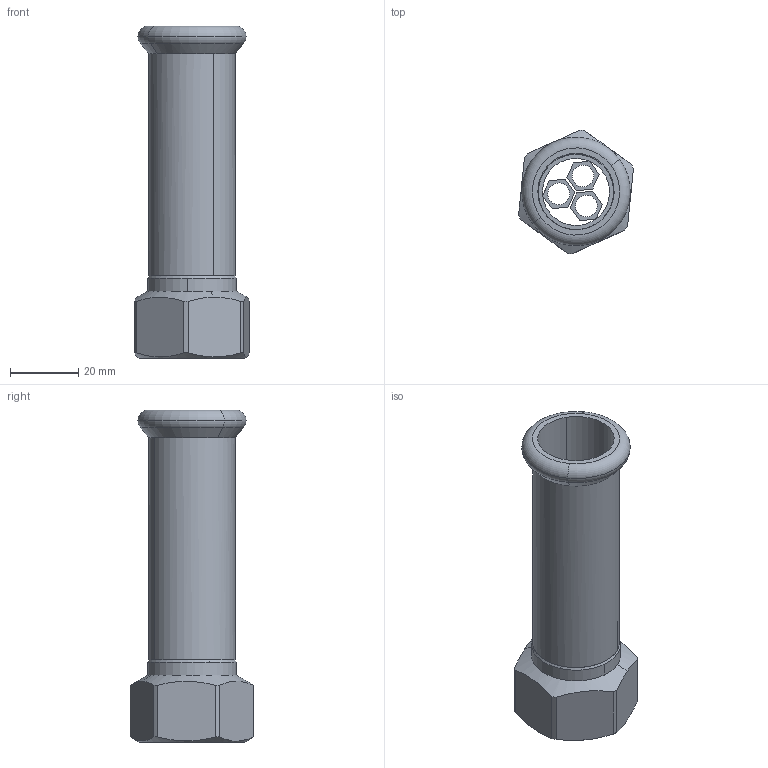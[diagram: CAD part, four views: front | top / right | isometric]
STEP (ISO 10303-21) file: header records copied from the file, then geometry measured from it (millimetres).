
FILE_DESCRIPTION(('OneSpaceDesigner STEP Export'),'2;1');
FILE_NAME('R2741 22xRp3-4.stp','2010-06-10T14:47:32',(''),(''),'OneSpace Designer STEP processor for AP214 (Solid Model)','OneSpace Modeling 15.00A 14-Mar-2007 (C) CoCreate Software GmbH','');
FILE_SCHEMA(('AUTOMOTIVE_DESIGN { 1 0 10303 214 1 1 1 1 }'));
Length unit declared in the file: millimetre
Products named in the file (2): R2741_22xRp3-4
Assembly tree (1 placements, depth 2):
  R2741_22xRp3-4
    R2741_22xRp3-4
Bounding box: 33.55 x 36.12 x 97 mm (x, y, z)
Volume: 18262.3 mm3; surface area: 17465.1 mm2
Topology: 1 solids, 1 shells, 90 faces, 240 edges, 159 vertices
Faces by surface type: plane 39, cylinder 31, cone 16, torus 4
Entity records: 3421 total; most frequent: CARTESIAN_POINT 1294, ORIENTED_EDGE 480, DIRECTION 371, EDGE_CURVE 240, VERTEX_POINT 159, AXIS2_PLACEMENT_3D 126, VECTOR 119, LINE 119
